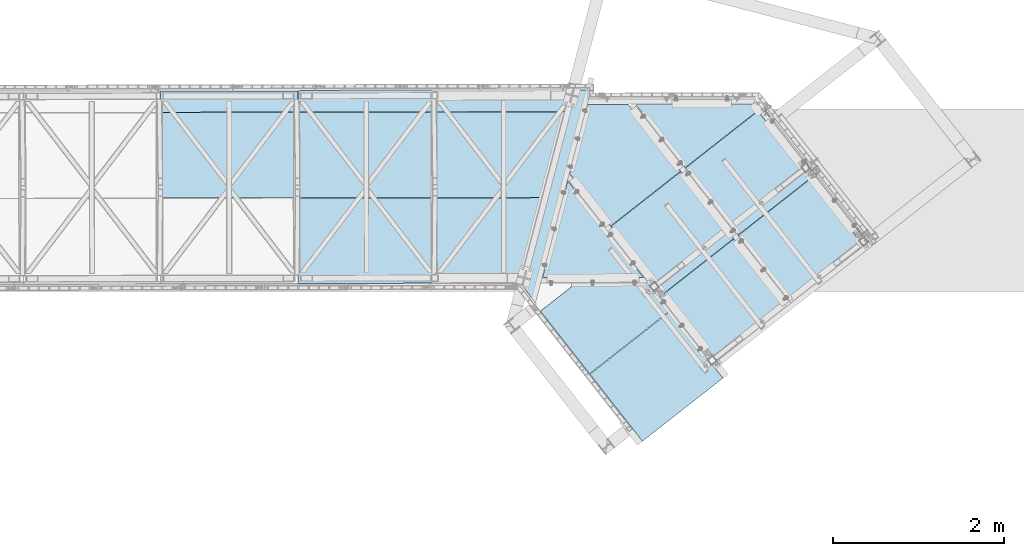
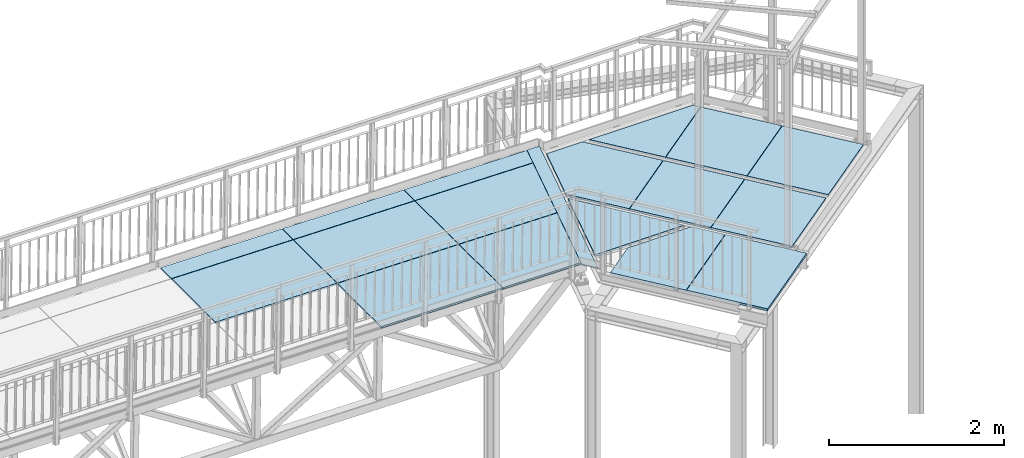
# One storey, part 27 of 169: 18 plates, 18 elements without a shape of their own.
"""IFC2X3 building model written with IfcOpenShell, lengths in millimetres."""

from ifc_helpers import new_model, si_unit, frame, origin_with_axes, place, context, subcontext, project, spatial, polyline, outline, extrude, material, type_object, element, aggregate, save


model = new_model("IFC2X3")

# Units and contexts
model_context = context("Model", 3, precision=1e-05, world=origin_with_axes())
body_context = subcontext(model_context, "Body", "Model", "MODEL_VIEW")
ifc_project = project(units=[si_unit("LENGTHUNIT", "METRE", prefix="MILLI"), si_unit("AREAUNIT", "SQUARE_METRE"), si_unit("VOLUMEUNIT", "CUBIC_METRE"), si_unit("MASSUNIT", "GRAM", prefix="KILO"), si_unit("TIMEUNIT", "SECOND"), si_unit("PLANEANGLEUNIT", "RADIAN"), si_unit("SOLIDANGLEUNIT", "STERADIAN"), si_unit("THERMODYNAMICTEMPERATUREUNIT", "DEGREE_CELSIUS"), si_unit("LUMINOUSINTENSITYUNIT", "LUMEN")], contexts=[model_context])

# Site, building, storey
site_placement = place(None, origin_with_axes())
site = spatial("IfcSite", under=ifc_project, at=site_placement, Name="Undefined", CompositionType="ELEMENT")
building_placement = place(site_placement, origin_with_axes())
building = spatial("IfcBuilding", under=site, at=building_placement, Name="Undefined", CompositionType="ELEMENT")
storey_placement = place(building_placement, origin_with_axes())
storey = spatial("IfcBuildingStorey", under=building, at=storey_placement, Name="Undefined", CompositionType="ELEMENT", Elevation=0.0)

# Assembly, plate
assembly_1_placement = place(storey_placement, origin_with_axes())
assembly_1 = element("IfcElementAssembly", 1, at=assembly_1_placement, inside=storey, Name="Steel Assembly", AssemblyPlace="NOTDEFINED", PredefinedType="RIGID_FRAME")
ifc_material = material(Name="STEEL/S275JR")
plate_type_1 = type_object("IfcPlateType", Name="BL25*1000", PredefinedType="NOTDEFINED")
plate_1_placement = place(assembly_1_placement, frame((15783.6909118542, 1079.45004153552, 13826.0789405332), z_axis=(0.012713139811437, 2.3750999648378e-05, 0.999919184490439), x_axis=(0.9999174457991, 0.00186469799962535, -0.0127131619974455)))
plate_1 = element("IfcPlate", 2, at=plate_1_placement, type_object=plate_type_1, material=ifc_material, Name="KRATA", ObjectType="BL25*1000", context=body_context, shape_type="SweptSolid", body=[
    extrude(outline(polyline([(0.0, 0.0), (1604.99999999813, -1.71257852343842e-09), (1604.99999999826, 999.99999999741), (4.62969182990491e-08, 1000.00000000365), (0.0, 0.0)])), frame((-2.16840434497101e-17, 4.54747358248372e-13, -12.4999999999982), z_axis=(0.0, 0.0, 1.0), x_axis=(1.0, 0.0, 0.0)), (0.0, 0.0, 1.0), 25.0),
])
aggregate(assembly_1, [plate_1])

assembly_2_placement = place(storey_placement, origin_with_axes())
assembly_2 = element("IfcElementAssembly", 3, at=assembly_2_placement, inside=storey, Name="Steel Assembly", AssemblyPlace="NOTDEFINED", PredefinedType="RIGID_FRAME")
plate_2_placement = place(assembly_2_placement, frame((15785.5650857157, 74.4517890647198, 13826.0789839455), z_axis=(0.012713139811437, 2.3750999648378e-05, 0.999919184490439), x_axis=(0.9999174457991, 0.00186469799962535, -0.0127131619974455)))
plate_2 = element("IfcPlate", 4, at=plate_2_placement, type_object=plate_type_1, material=ifc_material, Name="KRATA", ObjectType="BL25*1000", context=body_context, shape_type="SweptSolid", body=[
    extrude(outline(polyline([(0.0, 0.0), (1604.99999999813, -1.71257852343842e-09), (1604.99999999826, 999.99999999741), (4.62969182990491e-08, 1000.00000000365), (0.0, 0.0)])), frame((-2.16840434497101e-17, 4.54747358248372e-13, -12.4999999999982), z_axis=(0.0, 0.0, 1.0), x_axis=(1.0, 0.0, 0.0)), (0.0, 0.0, 1.0), 25.0),
])
aggregate(assembly_2, [plate_2])

assembly_3_placement = place(storey_placement, origin_with_axes())
assembly_3 = element("IfcElementAssembly", 5, at=assembly_3_placement, inside=storey, Name="Steel Assembly", AssemblyPlace="NOTDEFINED", PredefinedType="RIGID_FRAME")
plate_3_placement = place(assembly_3_placement, frame((17393.5739218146, 1082.45223560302, 13805.6105472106), z_axis=(0.012713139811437, 2.3750999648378e-05, 0.999919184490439), x_axis=(0.9999174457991, 0.00186469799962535, -0.0127131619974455)))
plate_3 = element("IfcPlate", 6, at=plate_3_placement, type_object=plate_type_1, material=ifc_material, Name="KRATA", ObjectType="BL25*1000", context=body_context, shape_type="SweptSolid", body=[
    extrude(outline(polyline([(0.0, 0.0), (1323.14160156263, -9.28139343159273e-10), (1587.24157714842, 999.999999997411), (4.62969182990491e-08, 1000.00000000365), (0.0, 0.0)])), frame((-2.16840434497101e-17, 4.54747358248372e-13, -12.4999999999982), z_axis=(0.0, 0.0, 1.0), x_axis=(1.0, 0.0, 0.0)), (0.0, 0.0, 1.0), 25.0),
])
aggregate(assembly_3, [plate_3])

assembly_4_placement = place(storey_placement, origin_with_axes())
assembly_4 = element("IfcElementAssembly", 7, at=assembly_4_placement, inside=storey, Name="Steel Assembly", AssemblyPlace="NOTDEFINED", PredefinedType="RIGID_FRAME")
plate_4_placement = place(assembly_4_placement, frame((17395.4619673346, 77.4540091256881, 13805.6104142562), z_axis=(0.012713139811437, 2.3750999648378e-05, 0.999919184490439), x_axis=(0.9999174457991, 0.00186469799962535, -0.0127131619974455)))
plate_4 = element("IfcPlate", 8, at=plate_4_placement, type_object=plate_type_1, material=ifc_material, Name="KRATA", ObjectType="BL25*1000", context=body_context, shape_type="SweptSolid", body=[
    extrude(outline(polyline([(0.0, 0.0), (1057.62780761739, -3.20647330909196e-09), (1321.82775878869, 999.99999999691), (4.62969182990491e-08, 1000.00000000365), (0.0, 0.0)])), frame((-2.16840434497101e-17, 4.54747358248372e-13, -12.4999999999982), z_axis=(0.0, 0.0, 1.0), x_axis=(1.0, 0.0, 0.0)), (0.0, 0.0, 1.0), 25.0),
])
aggregate(assembly_4, [plate_4])

assembly_5_placement = place(storey_placement, origin_with_axes())
assembly_5 = element("IfcElementAssembly", 9, at=assembly_5_placement, inside=storey, Name="Steel Assembly", AssemblyPlace="NOTDEFINED", PredefinedType="RIGID_FRAME")
plate_5_placement = place(assembly_5_placement, frame((14173.8237834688, 1076.44787709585, 13846.54713154), z_axis=(0.012713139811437, 2.3750999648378e-05, 0.999919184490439), x_axis=(0.9999174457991, 0.00186469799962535, -0.0127131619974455)))
plate_5 = element("IfcPlate", 10, at=plate_5_placement, type_object=plate_type_1, material=ifc_material, Name="KRATA", ObjectType="BL25*1000", context=body_context, shape_type="SweptSolid", body=[
    extrude(outline(polyline([(0.0, 0.0), (1604.99999999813, -1.71257852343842e-09), (1604.99999999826, 999.99999999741), (4.62969182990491e-08, 1000.00000000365), (0.0, 0.0)])), frame((-2.16840434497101e-17, 4.54747358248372e-13, -12.4999999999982), z_axis=(0.0, 0.0, 1.0), x_axis=(1.0, 0.0, 0.0)), (0.0, 0.0, 1.0), 25.0),
])
aggregate(assembly_5, [plate_5])

assembly_6_placement = place(storey_placement, origin_with_axes())
assembly_6 = element("IfcElementAssembly", 11, at=assembly_6_placement, inside=storey, Name="Steel Assembly", AssemblyPlace="NOTDEFINED", PredefinedType="RIGID_FRAME")
plate_type_2 = type_object("IfcPlateType", Name="BL3*160", PredefinedType="NOTDEFINED")
plate_6_placement = place(assembly_6_placement, frame((18540.7230463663, -117.299773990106, 13805.0551306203), z_axis=(0.012713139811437, 2.3750999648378e-05, 0.999919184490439), x_axis=(0.253549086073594, 0.967317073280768, -0.0032466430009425)))
plate_6 = element("IfcPlate", 12, at=plate_6_placement, type_object=plate_type_2, material=ifc_material, Name="MASKOWNICA", ObjectType="BL3*160", context=body_context, shape_type="SweptSolid", body=[
    extrude(outline(polyline([(0.0, 0.0), (2541.14721679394, 9.33505361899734e-09), (2499.03881835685, 159.422042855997), (121.779052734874, 159.592056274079), (0.0, 0.0)])), frame((1.81898940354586e-12, -1.77635442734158e-15, -1.50000000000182), z_axis=(0.0, 0.0, 1.0), x_axis=(1.0, 0.0, 0.0)), (0.0, 0.0, 1.0), 3.0),
])
aggregate(assembly_6, [plate_6])

assembly_7_placement = place(storey_placement, origin_with_axes())
assembly_7 = element("IfcElementAssembly", 13, at=assembly_7_placement, inside=storey, Name="Steel Assembly", AssemblyPlace="NOTDEFINED", PredefinedType="RIGID_FRAME")
plate_type_3 = type_object("IfcPlateType", Name="BL30*931", PredefinedType="NOTDEFINED")
plate_7_placement = place(assembly_7_placement, frame((18946.7713178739, 1276.97925676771, 13780.4175478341), z_axis=(0.0, 0.0, 1.0), x_axis=(-0.252628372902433, -0.967563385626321, 0.0)))
plate_7 = element("IfcPlate", 14, at=plate_7_placement, type_object=plate_type_3, material=ifc_material, Name="KRATA", ObjectType="BL30*931", context=body_context, shape_type="SweptSolid", body=[
    extrude(outline(polyline([(0.0, 0.0), (1170.07995606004, 1.0550138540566e-10), (869.397583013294, 1143.23803711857), (0.0, 0.0)])), frame((1.81898940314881e-12, 3.72231275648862e-23, -15.0000000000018), z_axis=(0.0, 0.0, 1.0), x_axis=(1.0, 0.0, 0.0)), (0.0, 0.0, 1.0), 30.0),
])
aggregate(assembly_7, [plate_7])

assembly_8_placement = place(storey_placement, origin_with_axes())
assembly_8 = element("IfcElementAssembly", 15, at=assembly_8_placement, inside=storey, Name="Steel Assembly", AssemblyPlace="NOTDEFINED", PredefinedType="RIGID_FRAME")
plate_type_4 = type_object("IfcPlateType", Name="BL30*1286", PredefinedType="NOTDEFINED")
plate_8_placement = place(assembly_8_placement, frame((19450.991738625, 747.596769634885, 13780.4179593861), z_axis=(0.0, 0.0, 1.0), x_axis=(0.786773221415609, 0.617242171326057, 0.0)))
plate_8 = element("IfcPlate", 16, at=plate_8_placement, type_object=plate_type_4, material=ifc_material, Name="KRATA", ObjectType="BL30*1286", context=body_context, shape_type="SweptSolid", body=[
    extrude(outline(polyline([(0.0, 0.0), (1039.99999999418, 5.20230969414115e-10), (1040.72851561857, 992.866455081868), (665.373229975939, 1286.29638672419), (6.98491930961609e-10, 781.000000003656), (0.0, 0.0)])), frame((1.81898940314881e-12, 3.72231275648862e-23, -15.0000000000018), z_axis=(0.0, 0.0, 1.0), x_axis=(1.0, 0.0, 0.0)), (0.0, 0.0, 1.0), 30.0),
])
aggregate(assembly_8, [plate_8])

assembly_9_placement = place(storey_placement, origin_with_axes())
assembly_9 = element("IfcElementAssembly", 17, at=assembly_9_placement, inside=storey, Name="Steel Assembly", AssemblyPlace="NOTDEFINED", PredefinedType="RIGID_FRAME")
plate_type_5 = type_object("IfcPlateType", Name="BL30*1000", PredefinedType="NOTDEFINED")
plate_9_placement = place(assembly_9_placement, frame((20272.4000462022, 1385.49540658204, 13780.4180675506), z_axis=(0.0, 0.0, 1.0), x_axis=(-0.7867732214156, -0.61724217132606, -1.0406294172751e-07)))
plate_9 = element("IfcPlate", 18, at=plate_9_placement, type_object=plate_type_5, material=ifc_material, Name="KRATA", ObjectType="BL30*1000", context=body_context, shape_type="SweptSolid", body=[
    extrude(outline(polyline([(0.0, 0.0), (1039.99999999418, 5.20230969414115e-10), (1039.99999999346, 1000.00000000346), (4.62969182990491e-08, 1000.00000000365), (0.0, 0.0)])), frame((1.81898940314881e-12, 3.72231275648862e-23, -15.0000000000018), z_axis=(0.0, 0.0, 1.0), x_axis=(1.0, 0.0, 0.0)), (0.0, 0.0, 1.0), 30.0),
])
aggregate(assembly_9, [plate_9])

assembly_10_placement = place(storey_placement, origin_with_axes())
assembly_10 = element("IfcElementAssembly", 19, at=assembly_10_placement, inside=storey, Name="Steel Assembly", AssemblyPlace="NOTDEFINED", PredefinedType="RIGID_FRAME")
plate_10_placement = place(assembly_10_placement, frame((20892.7284284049, 594.788319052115, 13780.4180678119), z_axis=(0.0, 0.0, 1.0), x_axis=(-0.7867732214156, -0.61724217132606, -1.0406294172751e-07)))
plate_10 = element("IfcPlate", 20, at=plate_10_placement, type_object=plate_type_5, material=ifc_material, Name="KRATA", ObjectType="BL30*1000", context=body_context, shape_type="SweptSolid", body=[
    extrude(outline(polyline([(0.0, 0.0), (1039.99999999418, 5.20230969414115e-10), (1039.99999999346, 1000.00000000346), (4.62969182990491e-08, 1000.00000000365), (0.0, 0.0)])), frame((1.81898940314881e-12, 3.72231275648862e-23, -15.0000000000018), z_axis=(0.0, 0.0, 1.0), x_axis=(1.0, 0.0, 0.0)), (0.0, 0.0, 1.0), 30.0),
])
aggregate(assembly_10, [plate_10])

assembly_11_placement = place(storey_placement, origin_with_axes())
assembly_11 = element("IfcElementAssembly", 21, at=assembly_11_placement, inside=storey, Name="Steel Assembly", AssemblyPlace="NOTDEFINED", PredefinedType="RIGID_FRAME")
plate_11_placement = place(assembly_11_placement, frame((21177.1892508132, 2095.32390359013, 13780.4181871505), z_axis=(0.0, 0.0, 1.0), x_axis=(-0.7867732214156, -0.61724217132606, -1.0406294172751e-07)))
plate_11 = element("IfcPlate", 22, at=plate_11_placement, type_object=plate_type_5, material=ifc_material, Name="KRATA", ObjectType="BL30*1000", context=body_context, shape_type="SweptSolid", body=[
    extrude(outline(polyline([(0.0, 0.0), (1079.99999999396, -8.0763129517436e-10), (1079.99999999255, 1000.0000000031), (4.62969182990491e-08, 1000.00000000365), (0.0, 0.0)])), frame((1.81898940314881e-12, 3.72231275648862e-23, -15.0000000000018), z_axis=(0.0, 0.0, 1.0), x_axis=(1.0, 0.0, 0.0)), (0.0, 0.0, 1.0), 30.0),
])
aggregate(assembly_11, [plate_11])

assembly_12_placement = place(storey_placement, origin_with_axes())
assembly_12 = element("IfcElementAssembly", 23, at=assembly_12_placement, inside=storey, Name="Steel Assembly", AssemblyPlace="NOTDEFINED", PredefinedType="RIGID_FRAME")
plate_12_placement = place(assembly_12_placement, frame((21797.5176330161, 1304.6168160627, 13780.4181874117), z_axis=(0.0, 0.0, 1.0), x_axis=(-0.7867732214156, -0.61724217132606, -1.0406294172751e-07)))
plate_12 = element("IfcPlate", 24, at=plate_12_placement, type_object=plate_type_5, material=ifc_material, Name="KRATA", ObjectType="BL30*1000", context=body_context, shape_type="SweptSolid", body=[
    extrude(outline(polyline([(0.0, 0.0), (1079.99999999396, -8.0763129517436e-10), (1079.99999999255, 1000.0000000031), (4.62969182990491e-08, 1000.00000000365), (0.0, 0.0)])), frame((1.81898940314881e-12, 3.72231275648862e-23, -15.0000000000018), z_axis=(0.0, 0.0, 1.0), x_axis=(1.0, 0.0, 0.0)), (0.0, 0.0, 1.0), 30.0),
])
aggregate(assembly_12, [plate_12])

assembly_13_placement = place(storey_placement, origin_with_axes())
assembly_13 = element("IfcElementAssembly", 25, at=assembly_13_placement, inside=storey, Name="Steel Assembly", AssemblyPlace="NOTDEFINED", PredefinedType="RIGID_FRAME")
plate_13_placement = place(assembly_13_placement, frame((19823.5051290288, -1776.5883036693, 13780.4174698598), z_axis=(0.0, 0.0, 1.0), x_axis=(0.786773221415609, 0.617242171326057, 0.0)))
plate_13 = element("IfcPlate", 26, at=plate_13_placement, type_object=plate_type_5, material=ifc_material, Name="KRATA", ObjectType="BL30*1000", context=body_context, shape_type="SweptSolid", body=[
    extrude(outline(polyline([(0.0, 0.0), (1199.99999999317, -2.35922925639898e-09), (1199.99999998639, 1000.00000000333), (4.62969182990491e-08, 1000.00000000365), (0.0, 0.0)])), frame((1.81898940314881e-12, 3.72231275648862e-23, -15.0000000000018), z_axis=(0.0, 0.0, 1.0), x_axis=(1.0, 0.0, 0.0)), (0.0, 0.0, 1.0), 30.0),
])
aggregate(assembly_13, [plate_13])

assembly_14_placement = place(storey_placement, origin_with_axes())
assembly_14 = element("IfcElementAssembly", 27, at=assembly_14_placement, inside=storey, Name="Steel Assembly", AssemblyPlace="NOTDEFINED", PredefinedType="RIGID_FRAME")
plate_type_6 = type_object("IfcPlateType", Name="BL30*939", PredefinedType="NOTDEFINED")
plate_14_placement = place(assembly_14_placement, frame((20324.4573553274, 1432.5477703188, 13780.4180748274), z_axis=(0.0, 0.0, 1.0), x_axis=(0.786773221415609, 0.617242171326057, 0.0)))
plate_14 = element("IfcPlate", 28, at=plate_14_placement, type_object=plate_type_6, material=ifc_material, Name="KRATA", ObjectType="BL30*939", context=body_context, shape_type="SweptSolid", body=[
    extrude(outline(polyline([(0.0, 0.0), (1079.99999999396, -8.0763129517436e-10), (1079.99999999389, 94.7217254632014), (-1.78224581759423e-08, 939.000000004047), (0.0, 0.0)])), frame((1.81898940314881e-12, 3.72231275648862e-23, -15.0000000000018), z_axis=(0.0, 0.0, 1.0), x_axis=(1.0, 0.0, 0.0)), (0.0, 0.0, 1.0), 30.0),
])
aggregate(assembly_14, [plate_14])

assembly_15_placement = place(storey_placement, origin_with_axes())
assembly_15 = element("IfcElementAssembly", 29, at=assembly_15_placement, inside=storey, Name="Steel Assembly", AssemblyPlace="NOTDEFINED", PredefinedType="RIGID_FRAME")
plate_type_7 = type_object("IfcPlateType", Name="BL30*935", PredefinedType="NOTDEFINED")
plate_15_placement = place(assembly_15_placement, frame((19203.1767468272, -985.881216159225, 13780.4173331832), z_axis=(0.0, 0.0, 1.0), x_axis=(0.786773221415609, 0.617242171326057, 0.0)))
plate_15 = element("IfcPlate", 30, at=plate_15_placement, type_object=plate_type_7, material=ifc_material, Name="KRATA", ObjectType="BL30*935", context=body_context, shape_type="SweptSolid", body=[
    extrude(outline(polyline([(0.0, 0.0), (1199.99999999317, -2.35922925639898e-09), (1199.99999999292, 416.000000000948), (535.999999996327, 935.000000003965), (7.75617081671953e-09, 935.000000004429), (0.0, 0.0)])), frame((1.81898940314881e-12, 3.72231275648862e-23, -15.0000000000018), z_axis=(0.0, 0.0, 1.0), x_axis=(1.0, 0.0, 0.0)), (0.0, 0.0, 1.0), 30.0),
])
aggregate(assembly_15, [plate_15])

assembly_16_placement = place(storey_placement, origin_with_axes())
assembly_16 = element("IfcElementAssembly", 31, at=assembly_16_placement, inside=storey, Name="Steel Assembly", AssemblyPlace="NOTDEFINED", PredefinedType="RIGID_FRAME")
plate_type_8 = type_object("IfcPlateType", Name="BL25*250", PredefinedType="NOTDEFINED")
plate_16_placement = place(assembly_16_placement, frame((15781.82155937, 2084.44830299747, 13826.078835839), z_axis=(0.012713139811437, 2.3750999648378e-05, 0.999919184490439), x_axis=(0.9999174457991, 0.00186469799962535, -0.0127131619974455)))
plate_16 = element("IfcPlate", 32, at=plate_16_placement, type_object=plate_type_8, material=ifc_material, Name="KRATA", ObjectType="BL25*250", context=body_context, shape_type="SweptSolid", body=[
    extrude(outline(polyline([(0.0, 0.0), (1604.99999999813, -1.71257852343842e-09), (1604.99999999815, 249.999999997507), (4.90217644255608e-10, 249.999999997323), (0.0, 0.0)])), frame((-2.16840434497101e-17, 4.54747358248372e-13, -12.4999999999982), z_axis=(0.0, 0.0, 1.0), x_axis=(1.0, 0.0, 0.0)), (0.0, 0.0, 1.0), 25.0),
])
aggregate(assembly_16, [plate_16])

assembly_17_placement = place(storey_placement, origin_with_axes())
assembly_17 = element("IfcElementAssembly", 33, at=assembly_17_placement, inside=storey, Name="Steel Assembly", AssemblyPlace="NOTDEFINED", PredefinedType="RIGID_FRAME")
plate_17_placement = place(assembly_17_placement, frame((17391.7296023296, 2087.45054376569, 13805.6101242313), z_axis=(0.012713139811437, 2.3750999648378e-05, 0.999919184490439), x_axis=(0.9999174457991, 0.00186469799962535, -0.0127131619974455)))
plate_17 = element("IfcPlate", 34, at=plate_17_placement, type_object=plate_type_8, material=ifc_material, Name="KRATA", ObjectType="BL25*250", context=body_context, shape_type="SweptSolid", body=[
    extrude(outline(polyline([(0.0, 0.0), (1588.31164550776, -3.61023921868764e-09), (1654.31164550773, 249.999999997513), (4.90217644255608e-10, 249.999999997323), (0.0, 0.0)])), frame((-2.16840434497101e-17, 4.54747358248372e-13, -12.4999999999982), z_axis=(0.0, 0.0, 1.0), x_axis=(1.0, 0.0, 0.0)), (0.0, 0.0, 1.0), 25.0),
])
aggregate(assembly_17, [plate_17])

assembly_18_placement = place(storey_placement, origin_with_axes())
assembly_18 = element("IfcElementAssembly", 35, at=assembly_18_placement, inside=storey, Name="Steel Assembly", AssemblyPlace="NOTDEFINED", PredefinedType="RIGID_FRAME")
plate_18_placement = place(assembly_18_placement, frame((14171.9544309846, 2081.4461385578, 13846.5470268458), z_axis=(0.012713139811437, 2.3750999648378e-05, 0.999919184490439), x_axis=(0.9999174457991, 0.00186469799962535, -0.0127131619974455)))
plate_18 = element("IfcPlate", 36, at=plate_18_placement, type_object=plate_type_8, material=ifc_material, Name="KRATA", ObjectType="BL25*250", context=body_context, shape_type="SweptSolid", body=[
    extrude(outline(polyline([(0.0, 0.0), (1604.99999999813, -1.71257852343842e-09), (1604.99999999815, 249.999999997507), (4.90217644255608e-10, 249.999999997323), (0.0, 0.0)])), frame((-2.16840434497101e-17, 4.54747358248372e-13, -12.4999999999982), z_axis=(0.0, 0.0, 1.0), x_axis=(1.0, 0.0, 0.0)), (0.0, 0.0, 1.0), 25.0),
])
aggregate(assembly_18, [plate_18])

save(model, "model.ifc")
